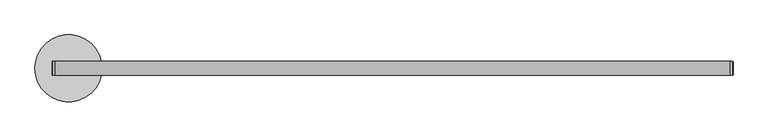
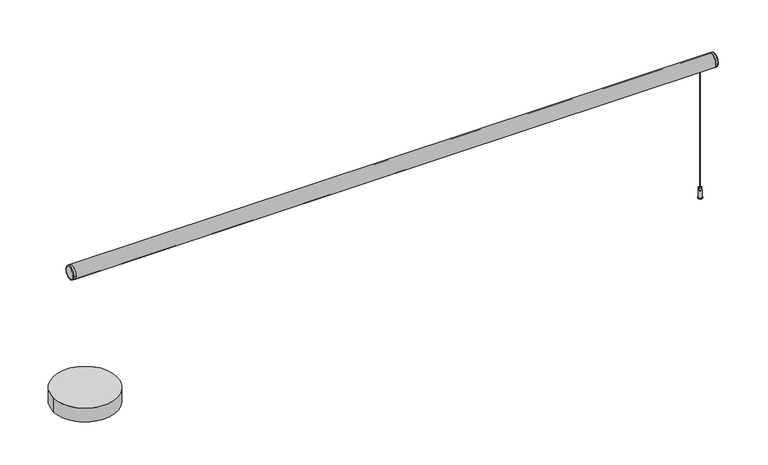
"""IFC4 building model written with IfcOpenShell, lengths in millimetres: light fixture geometry, ARTEMIDE-AoL-StandAlone-Linear_Suspended : StandALone_Suspended_Linear-2400mm 6969lm 3000K."""

import ifcopenshell
import ifcopenshell.guid

model = None  # the IFC model being written
_history = None  # IfcOwnerHistory: only IFC2X3 demands one
_inside = {}  # id of a spatial element -> (the spatial element, [elements in it])
_under = {}  # id of a project, library or spatial element -> (it, [spatial elements below it])
_declared = {}  # id of a project -> (the project, [libraries it declares])
_typed = {}  # id of a type object -> (the type object, [elements of that type])
_made_of = {}  # id of a material, layer set ... -> (it, [elements and type objects made of it])


def new_model(schema):
    """Start an empty IFC model of exactly this schema.

    Asked for "IFC4X3", IfcOpenShell would pick the latest addendum, in which some entities
    have other attributes; the version numbers below select the first issue.
    IFC2X3 requires an IfcOwnerHistory on every rooted entity: one is made here for all.
    """
    global model, _history
    if schema == "IFC4X3":
        model = ifcopenshell.file(schema_version=(4, 3, 0, 0))
    else:
        model = ifcopenshell.file(schema=schema)
    _inside.clear()
    _under.clear()
    _declared.clear()
    _typed.clear()
    _made_of.clear()
    _history = None
    if model.schema == "IFC2X3":
        org = make("IfcOrganization", Name="unknown")
        user = make(
            "IfcPersonAndOrganization",
            ThePerson=make("IfcPerson", FamilyName="unknown"),
            TheOrganization=org,
        )
        app = make(
            "IfcApplication",
            ApplicationDeveloper=org,
            Version="unknown",
            ApplicationFullName="unknown",
            ApplicationIdentifier="unknown",
        )
        _history = make(
            "IfcOwnerHistory",
            OwningUser=user,
            OwningApplication=app,
            ChangeAction="ADDED",
            CreationDate=0,
        )
    return model


def make(cls, **values):
    """One entity of the class cls with the attributes given. An attribute that is None is left unset."""
    return model.create_entity(
        cls, **{name: value for name, value in values.items() if value is not None}
    )


def rooted(cls, **values):
    """An entity with a GlobalId (a new one), such as an element, a storey or a relation."""
    return make(cls, GlobalId=ifcopenshell.guid.new(), OwnerHistory=_history, **values)


def si_unit(unit_type, name, prefix=None):
    """IfcSIUnit, for example si_unit("LENGTHUNIT", "METRE", prefix="MILLI")."""
    return make("IfcSIUnit", UnitType=unit_type, Prefix=prefix, Name=name)


def assignment(units):
    """IfcUnitAssignment: the units of a project."""
    return None if units is None else make("IfcUnitAssignment", Units=units)


def point(xyz):
    """IfcCartesianPoint."""
    return None if xyz is None else make("IfcCartesianPoint", Coordinates=xyz)


def direction(xyz):
    """IfcDirection."""
    return None if xyz is None else make("IfcDirection", DirectionRatios=xyz)


def frame(location, z_axis=None, x_axis=None):
    """IfcAxis2Placement3D, a coordinate frame: its origin and axes. An axis left out is left unset."""
    return make(
        "IfcAxis2Placement3D",
        Location=point(location),
        Axis=direction(z_axis),
        RefDirection=direction(x_axis),
    )


def frame_2d(location, x_axis=None):
    """IfcAxis2Placement2D, a coordinate frame in the plane: its origin and x axis."""
    return make(
        "IfcAxis2Placement2D", Location=point(location), RefDirection=direction(x_axis)
    )


def origin():
    """The frame at (0, 0, 0) with its axes left unset."""
    return frame((0.0, 0.0, 0.0))


def origin_with_axes():
    """The frame at (0, 0, 0) with the z axis (0, 0, 1) and the x axis (1, 0, 0) written out."""
    return frame((0.0, 0.0, 0.0), z_axis=(0.0, 0.0, 1.0), x_axis=(1.0, 0.0, 0.0))


def place(relative_to, where):
    """IfcLocalPlacement: puts the frame where relative to a parent placement (None: the world)."""
    return make(
        "IfcLocalPlacement", PlacementRelTo=relative_to, RelativePlacement=where
    )


def context(
    kind, dimensions, precision=None, world=None, true_north=None, identifier=None
):
    """IfcGeometricRepresentationContext, for example the 3D "Model" context."""
    return make(
        "IfcGeometricRepresentationContext",
        ContextIdentifier=identifier,
        ContextType=kind,
        CoordinateSpaceDimension=dimensions,
        Precision=precision,
        WorldCoordinateSystem=world,
        TrueNorth=true_north,
    )


def project(units=None, contexts=None):
    """IfcProject with its units and contexts."""
    return rooted(
        "IfcProject",
        Name="project",
        RepresentationContexts=contexts,
        UnitsInContext=assignment(units),
    )


def spatial(cls, under=None, at=None, **own):
    """A site, building, storey or space (cls), placed at a placement, below another one or the project."""
    s = rooted(cls, ObjectPlacement=at, **own)
    if under is not None:
        _under.setdefault(under.id(), (under, []))[1].append(s)
    return s


def polyline(points):
    """IfcPolyline through the points."""
    return make("IfcPolyline", Points=[point(p) for p in points])


def circle_curve(where, radius):
    """IfcCircle in the frame where."""
    return make("IfcCircle", Position=where, Radius=radius)


def ellipse_curve(where, semi_axis1, semi_axis2):
    """IfcEllipse in the frame where."""
    return make(
        "IfcEllipse", Position=where, SemiAxis1=semi_axis1, SemiAxis2=semi_axis2
    )


def trimmed(basis, trim1, trim2, sense, master):
    """IfcTrimmedCurve: the piece of a basis curve between two trims."""
    return make(
        "IfcTrimmedCurve",
        BasisCurve=basis,
        Trim1=trim1,
        Trim2=trim2,
        SenseAgreement=sense,
        MasterRepresentation=master,
    )


def segment(curve, same_sense, transition):
    """IfcCompositeCurveSegment."""
    return make(
        "IfcCompositeCurveSegment",
        Transition=transition,
        SameSense=same_sense,
        ParentCurve=curve,
    )


def composite_curve(segments, self_intersect=None):
    """IfcCompositeCurve: segments joined end to end."""
    return make("IfcCompositeCurve", Segments=segments, SelfIntersect=self_intersect)


def outline(outer, holes=None, kind="AREA"):
    """IfcArbitraryClosedProfileDef: a profile drawn as a closed curve; with holes, ...WithVoids."""
    if holes is None:
        return make("IfcArbitraryClosedProfileDef", ProfileType=kind, OuterCurve=outer)
    return make(
        "IfcArbitraryProfileDefWithVoids",
        ProfileType=kind,
        OuterCurve=outer,
        InnerCurves=holes,
    )


def extrude(swept, where, along, depth):
    """IfcExtrudedAreaSolid: the profile swept, set in the frame where, extruded along a direction by depth."""
    return make(
        "IfcExtrudedAreaSolid",
        SweptArea=swept,
        Position=where,
        ExtrudedDirection=direction(along),
        Depth=depth,
    )


def shape(context_of_items, identifier, shape_type, items):
    """IfcShapeRepresentation: the items that make up one representation, for example the "Body"."""
    return make(
        "IfcShapeRepresentation",
        ContextOfItems=context_of_items,
        RepresentationIdentifier=identifier,
        RepresentationType=shape_type,
        Items=items,
    )


def source(mapping_origin, context_of_items, identifier, shape_type, items):
    """IfcRepresentationMap: a shape defined once, which mapped items show again and again."""
    return make(
        "IfcRepresentationMap",
        MappingOrigin=mapping_origin,
        MappedRepresentation=shape(context_of_items, identifier, shape_type, items),
    )


def transform(
    local_origin,
    x_axis=None,
    y_axis=None,
    z_axis=None,
    scale=None,
    scale2=None,
    scale3=None,
    uniform=True,
):
    """IfcCartesianTransformationOperator3D, or its non-uniform kind. x_axis, y_axis, z_axis: its Axis1, 2, 3."""
    if uniform:
        return make(
            "IfcCartesianTransformationOperator3D",
            Axis1=direction(x_axis),
            Axis2=direction(y_axis),
            LocalOrigin=point(local_origin),
            Scale=scale,
            Axis3=direction(z_axis),
        )
    return make(
        "IfcCartesianTransformationOperator3DnonUniform",
        Axis1=direction(x_axis),
        Axis2=direction(y_axis),
        LocalOrigin=point(local_origin),
        Scale=scale,
        Axis3=direction(z_axis),
        Scale2=scale2,
        Scale3=scale3,
    )


def mapped(mapping_source, mapping_target):
    """IfcMappedItem: shows the shape of a source again, moved by a transform."""
    return make(
        "IfcMappedItem", MappingSource=mapping_source, MappingTarget=mapping_target
    )


def made_of(thing, what):
    """Note that an element or type object is made of a material, layer set ...; save() writes the relation."""
    if what is not None:
        _made_of.setdefault(what.id(), (what, []))[1].append(thing)
    return thing


def element(
    cls,
    number,
    at=None,
    inside=None,
    cuts=None,
    type_object=None,
    material=None,
    context=None,
    identifier="Body",
    shape_type=None,
    held_by="IfcProductDefinitionShape",
    body=None,
    shapes=None,
    **own,
):
    """One element of the class cls, such as IfcWall. Its Tag is "e" and its number.

    at: its placement. inside: the storey or other place that contains it. cuts: it is an
    opening in that element (IfcRelVoidsElement). A single representation is given by context,
    identifier, shape_type and body (its items); several are given by shapes. held_by: the class
    of the entity that holds the representations. save() writes the other relations.
    """
    e = rooted(cls, Tag="e%d" % number, ObjectPlacement=at, **own)
    if body is not None:
        shapes = [shape(context, identifier, shape_type, body)]
    if shapes is not None:
        e.Representation = make(held_by, Representations=shapes)
    if inside is not None:
        _inside.setdefault(inside.id(), (inside, []))[1].append(e)
    if cuts is not None:
        rooted(
            "IfcRelVoidsElement", RelatingBuildingElement=cuts, RelatedOpeningElement=e
        )
    if type_object is not None:
        _typed.setdefault(type_object.id(), (type_object, []))[1].append(e)
    return made_of(e, material)


def aggregate(whole, parts):
    """IfcRelAggregates: a whole, such as a stair, and the parts it consists of."""
    return rooted("IfcRelAggregates", RelatingObject=whole, RelatedObjects=parts)


def save(model, path):
    """Write the relations noted so far, then the file.

    IfcRelAggregates (storeys below a building ...), IfcRelContainedInSpatialStructure (elements
    in a storey), IfcRelDefinesByType, IfcRelAssociatesMaterial and IfcRelDeclares: one each for
    every whole, place, type object, material and project.
    """
    for whole, parts in _under.values():
        aggregate(whole, parts)
    for where, things in _inside.values():
        rooted(
            "IfcRelContainedInSpatialStructure",
            RelatedElements=things,
            RelatingStructure=where,
        )
    for kind, things in _typed.values():
        rooted("IfcRelDefinesByType", RelatedObjects=things, RelatingType=kind)
    for what, things in _made_of.values():
        rooted("IfcRelAssociatesMaterial", RelatedObjects=things, RelatingMaterial=what)
    for by, libraries in _declared.values():
        rooted("IfcRelDeclares", RelatingContext=by, RelatedDefinitions=libraries)
    model.write(path)


def plane_surface(at):
    """IfcPlane: the flat surface through the origin of the frame at, square to its z axis."""
    return make("IfcPlane", Position=at)


def cylinder_surface(at, radius):
    """IfcCylindricalSurface: all points at the distance radius from the z axis of the frame at."""
    return make("IfcCylindricalSurface", Position=at, Radius=radius)


def revolved_surface(curve, axis_point, axis_direction):
    """IfcSurfaceOfRevolution: the curve turned about the line through axis_point along axis_direction."""
    return make(
        "IfcSurfaceOfRevolution",
        SweptCurve=make("IfcArbitraryOpenProfileDef", ProfileType="CURVE", Curve=curve),
        AxisPosition=make("IfcAxis1Placement", Location=point(axis_point), Axis=direction(axis_direction)),
    )


def advanced_brep(points, edges, surfaces, faces):
    """IfcAdvancedBrep: a solid bounded by faces that lie on surfaces and meet in shared edges.

    An edge is (start, end): straight between two places in points (the first is 0);
    or (start, end, curve); or (start, end, curve, False) where it runs against its curve.
    A face is (place in surfaces, loops), or (place, loops, False) where it looks against
    its surface's normal. A loop lists edges by number (the first is 1), with a minus sign
    where the edge is run from its end to its start. The first loop is the outer one.
    """
    corners = [point(p) for p in points]
    vertices = [make("IfcVertexPoint", VertexGeometry=c) for c in corners]
    made = []
    for start, end, *more in edges:
        made.append(
            make(
                "IfcEdgeCurve",
                EdgeStart=vertices[start],
                EdgeEnd=vertices[end],
                EdgeGeometry=more[0] if more else make("IfcPolyline", Points=[corners[start], corners[end]]),
                SameSense=more[1] if len(more) > 1 else True,
            )
        )
    hull = []
    for where, loops, *sense in faces:
        bounds = []
        for j, loop in enumerate(loops):
            ring = [make("IfcOrientedEdge", EdgeElement=made[abs(k) - 1], Orientation=k > 0) for k in loop]
            bounds.append(
                make(
                    "IfcFaceOuterBound" if j == 0 else "IfcFaceBound",
                    Bound=make("IfcEdgeLoop", EdgeList=ring),
                    Orientation=True,
                )
            )
        hull.append(make("IfcAdvancedFace", Bounds=bounds, FaceSurface=surfaces[where], SameSense=sense[0] if sense else True))
    return make("IfcAdvancedBrep", Outer=make("IfcClosedShell", CfsFaces=hull))


def light_fixture_a0be27c5(model_context):
    return source(origin(), model_context, "Body", "SolidModel", [
        advanced_brep(
        [(-9.9967986, 22.0, 525.0), (-9.9967986, -22.0, 525.0), (0.0032014, 25.0, 525.0), (0.0032014, -25.0, 525.0), (-6.9967986, -25.0, 525.0), (-6.9967986, 25.0, 525.0)],
        [
            (0, 1, circle_curve(frame((-9.9967986, 0.0, 525.0), z_axis=(-1.0, 0.0, 0.0), x_axis=(0.0, -1.0, 0.0)), 22.0)),
            (1, 0, circle_curve(frame((-9.9967986, 0.0, 525.0), z_axis=(-1.0, 0.0, 0.0), x_axis=(0.0, 1.0, 0.0)), 22.0)),
            (2, 3, circle_curve(frame((0.0032014, 0.0, 525.0), z_axis=(1.0, 0.0, 0.0), x_axis=(0.0, -1.0, 0.0)), 25.0)),
            (3, 2, circle_curve(frame((0.0032014, 0.0, 525.0), z_axis=(1.0, 0.0, 0.0), x_axis=(0.0, -1.0, 0.0)), 25.0)),
            (3, 4),
            (4, 5, circle_curve(frame((-6.9967986, 0.0, 525.0), z_axis=(1.0, 0.0, 0.0), x_axis=(0.0, -1.0, 0.0)), 25.0)),
            (5, 2),
            (5, 4, circle_curve(frame((-6.9967986, 0.0, 525.0), z_axis=(1.0, 0.0, 0.0), x_axis=(0.0, -1.0, 0.0)), 25.0)),
            (0, 5, circle_curve(frame((-6.9967986, 22.0, 525.0), z_axis=(0.0, 0.0, -1.0), x_axis=(0.0, 1.0, 0.0)), 3.0)),
            (4, 1, circle_curve(frame((-6.9967986, -22.0, 525.0), z_axis=(0.0, 0.0, -1.0), x_axis=(0.0, -1.0, 0.0)), 3.0)),
        ],
        [
            plane_surface(frame((-9.9967986, -25.0, 525.0), z_axis=(-1.0, 0.0, 0.0), x_axis=(0.0, 0.0, 1.0))),
            plane_surface(frame((0.0032014, -25.0, 525.0), z_axis=(1.0, 0.0, 0.0), x_axis=(0.0, 0.0, -1.0))),
            cylinder_surface(frame((0.0032014, 0.0, 525.0), z_axis=(-1.0, 0.0, 0.0), x_axis=(0.0, -1.0, 0.0)), 25.0),
            revolved_surface(trimmed(ellipse_curve(frame((-6.9967986, -22.0, 525.0), z_axis=(0.0, 0.0, 1.0), x_axis=(0.0, -1.0, 0.0)), 3.0, 3.0), [point((-9.9967986, -22.0, 525.0))], [point((-6.9967986, -25.0, 525.0))], True, "CARTESIAN"), (-9.9967986, 0.0, 525.0), (1.0, 0.0, 0.0)),
            revolved_surface(trimmed(ellipse_curve(frame((-6.9967986, 22.0, 525.0), z_axis=(0.0, 0.0, -1.0), x_axis=(0.0, 1.0, 0.0)), 3.0, 3.0), [point((-9.9967986, 22.0, 525.0))], [point((-6.9967986, 25.0, 525.0))], True, "CARTESIAN"), (-9.9967986, 0.0, 525.0), (1.0, 0.0, 0.0)),
        ],
        [
            (0, [[1, 2]]),
            (1, [[3, 4]]),
            (2, [[-4, 5, 6, 7]]),
            (2, [[-3, -7, 8, -5]]),
            (3, [[9, -6, 10, -1]]),
            (4, [[-9, -2, -10, -8]]),
        ],
    ),
        advanced_brep(
        [(2335.0, 0.0, 41.0209548), (2337.0, 0.0, 41.0209548), (2341.4902255, 0.0, 41.0209548), (2330.5097745, 0.0, 41.0209548), (2335.0, 0.0, 0.0), (2337.0, 0.0, 0.0), (2327.4476301, 0.0, 0.0), (2344.5523699, 0.0, 0.0), (2327.4476301, 0.0, 2.0209548), (2344.5523699, 0.0, 2.0209548), (2329.4476301, 0.0, 2.0209548), (2342.5523699, 0.0, 2.0209548), (2329.4476301, 0.0, 30.9721976), (2342.5523699, 0.0, 30.9721976), (2330.5097745, 0.0, 30.9721976), (2341.4902255, 0.0, 30.9721976)],
        [
            (0, 1, circle_curve(frame((2336.0, 0.0, 41.0209548), z_axis=(0.0, 0.0, -1.0), x_axis=(1.0, 0.0, 0.0)), 1.0)),
            (1, 2),
            (2, 3, circle_curve(frame((2336.0, 0.0, 41.0209548), z_axis=(0.0, 0.0, 1.0), x_axis=(1.0, 0.0, 0.0)), 5.4902255)),
            (3, 0),
            (1, 0, circle_curve(frame((2336.0, 0.0, 41.0209548), z_axis=(0.0, 0.0, -1.0), x_axis=(1.0, 0.0, 0.0)), 1.0)),
            (3, 2, circle_curve(frame((2336.0, 0.0, 41.0209548), z_axis=(0.0, 0.0, 1.0), x_axis=(1.0, 0.0, 0.0)), 5.4902255)),
            (4, 5, circle_curve(frame((2336.0, 0.0, 0.0), z_axis=(0.0, 0.0, -1.0), x_axis=(1.0, 0.0, 0.0)), 1.0)),
            (5, 1),
            (0, 4),
            (5, 4, circle_curve(frame((2336.0, 0.0, 0.0), z_axis=(0.0, 0.0, -1.0), x_axis=(1.0, 0.0, 0.0)), 1.0)),
            (6, 7, circle_curve(frame((2336.0, 0.0, 0.0), z_axis=(0.0, 0.0, -1.0), x_axis=(1.0, 0.0, 0.0)), 8.5523699)),
            (7, 5),
            (4, 6),
            (7, 6, circle_curve(frame((2336.0, 0.0, 0.0), z_axis=(0.0, 0.0, -1.0), x_axis=(1.0, 0.0, 0.0)), 8.5523699)),
            (8, 9, circle_curve(frame((2336.0, 0.0, 2.0209548), z_axis=(0.0, 0.0, -1.0), x_axis=(1.0, 0.0, 0.0)), 8.5523699)),
            (9, 7),
            (6, 8),
            (9, 8, circle_curve(frame((2336.0, 0.0, 2.0209548), z_axis=(0.0, 0.0, -1.0), x_axis=(1.0, 0.0, 0.0)), 8.5523699)),
            (10, 11, circle_curve(frame((2336.0, 0.0, 2.0209548), z_axis=(0.0, 0.0, -1.0), x_axis=(1.0, 0.0, 0.0)), 6.5523699)),
            (11, 9),
            (8, 10),
            (11, 10, circle_curve(frame((2336.0, 0.0, 2.0209548), z_axis=(0.0, 0.0, -1.0), x_axis=(1.0, 0.0, 0.0)), 6.5523699)),
            (12, 13, circle_curve(frame((2336.0, 0.0, 30.9721976), z_axis=(0.0, 0.0, -1.0), x_axis=(1.0, 0.0, 0.0)), 6.5523699)),
            (13, 11),
            (10, 12),
            (13, 12, circle_curve(frame((2336.0, 0.0, 30.9721976), z_axis=(0.0, 0.0, -1.0), x_axis=(1.0, 0.0, 0.0)), 6.5523699)),
            (14, 15, circle_curve(frame((2336.0, 0.0, 30.9721976), z_axis=(0.0, 0.0, -1.0), x_axis=(1.0, 0.0, 0.0)), 5.4902255)),
            (15, 13),
            (12, 14),
            (15, 14, circle_curve(frame((2336.0, 0.0, 30.9721976), z_axis=(0.0, 0.0, -1.0), x_axis=(1.0, 0.0, 0.0)), 5.4902255)),
            (2, 15),
            (14, 3),
        ],
        [
            plane_surface(frame((2336.0, 0.0, 41.0209548), z_axis=(0.0, 0.0, 1.0), x_axis=(1.0, 0.0, 0.0))),
            revolved_surface(polyline([(2337.0, 0.0, 41.02095480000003), (2337.0, 0.0, 0.0)]), (2336.0, 0.0, 391.16642), (0.0, 0.0, 1.0)),
            plane_surface(frame((2336.0, 0.0, 0.0), z_axis=(0.0, 0.0, -1.0), x_axis=(1.0, 0.0, 0.0))),
            cylinder_surface(frame((2336.0, 0.0, 391.16642), z_axis=(0.0, 0.0, 1.0), x_axis=(1.0, 0.0, 0.0)), 8.5523699),
            plane_surface(frame((2336.0, 0.0, 2.0209548), z_axis=(0.0, 0.0, 1.0), x_axis=(1.0, 0.0, 0.0))),
            cylinder_surface(frame((2336.0, 0.0, 391.16642), z_axis=(0.0, 0.0, 1.0), x_axis=(1.0, 0.0, 0.0)), 6.5523699),
            plane_surface(frame((2336.0, 0.0, 30.9721976), z_axis=(0.0, 0.0, 1.0), x_axis=(1.0, 0.0, 0.0))),
            cylinder_surface(frame((2336.0, 0.0, 391.16642), z_axis=(0.0, 0.0, 1.0), x_axis=(1.0, 0.0, 0.0)), 5.4902255),
        ],
        [
            (0, [[1, 2, 3, 4]]),
            (0, [[5, -4, 6, -2]]),
            (1, [[7, 8, -1, 9]]),
            (1, [[10, -9, -5, -8]]),
            (2, [[11, 12, -7, 13]]),
            (2, [[14, -13, -10, -12]]),
            (3, [[15, 16, -11, 17]]),
            (3, [[18, -17, -14, -16]]),
            (4, [[19, 20, -15, 21]]),
            (4, [[22, -21, -18, -20]]),
            (5, [[23, 24, -19, 25]]),
            (5, [[26, -25, -22, -24]]),
            (6, [[27, 28, -23, 29]]),
            (6, [[30, -29, -26, -28]]),
            (7, [[-3, 31, -27, 32]]),
            (7, [[-6, -32, -30, -31]]),
        ],
    ),
        extrude(outline(composite_curve([segment(trimmed(circle_curve(frame_2d((2336.0, 0.0)), 0.8), [point((2335.2, 0.0))], [point((2336.8, 0.0))], False, "CARTESIAN"), True, "CONTINUOUS"), segment(trimmed(circle_curve(frame_2d((2336.0, 0.0)), 0.8), [point((2336.8, 0.0))], [point((2335.2, 0.0))], False, "CARTESIAN"), True, "CONTINUOUS")], self_intersect=False)), origin_with_axes(), (0.0, 0.0, 1.0), 500.0),
        advanced_brep(
        [(2390.0032014, -22.0, 525.0), (2390.0032014, 22.0, 525.0), (2380.0032014, 25.0, 525.0), (2380.0032014, -25.0, 525.0), (2387.0032014, -25.0, 525.0), (2387.0032014, 25.0, 525.0)],
        [
            (0, 1, circle_curve(frame((2390.0032014, 0.0, 525.0), z_axis=(1.0, 0.0, 0.0), x_axis=(0.0, 1.0, 0.0)), 22.0)),
            (1, 0, circle_curve(frame((2390.0032014, 0.0, 525.0), z_axis=(1.0, 0.0, 0.0), x_axis=(0.0, -1.0, 0.0)), 22.0)),
            (2, 3, circle_curve(frame((2380.0032014, 0.0, 525.0), z_axis=(-1.0, 0.0, 0.0), x_axis=(0.0, 0.0, 1.0)), 25.0)),
            (3, 2, circle_curve(frame((2380.0032014, 0.0, 525.0), z_axis=(-1.0, 0.0, 0.0), x_axis=(0.0, 0.0, 1.0)), 25.0)),
            (3, 4),
            (4, 5, circle_curve(frame((2387.0032014, 0.0, 525.0), z_axis=(-1.0, 0.0, 0.0), x_axis=(0.0, 0.0, 1.0)), 25.0)),
            (5, 2),
            (5, 4, circle_curve(frame((2387.0032014, 0.0, 525.0), z_axis=(-1.0, 0.0, 0.0), x_axis=(0.0, 0.0, 1.0)), 25.0)),
            (0, 4, circle_curve(frame((2387.0032014, -22.0, 525.0), z_axis=(0.0, 0.0, -1.0), x_axis=(0.0, -1.0, 0.0)), 3.0)),
            (5, 1, circle_curve(frame((2387.0032014, 22.0, 525.0), z_axis=(0.0, 0.0, -1.0), x_axis=(0.0, 1.0, 0.0)), 3.0)),
        ],
        [
            plane_surface(frame((2390.0032014, 0.0, 550.0), z_axis=(1.0, 0.0, 0.0), x_axis=(0.0, -1.0, 0.0))),
            plane_surface(frame((2380.0032014, 0.0, 550.0), z_axis=(-1.0, 0.0, 0.0), x_axis=(0.0, 1.0, 0.0))),
            cylinder_surface(frame((2380.0032014, 0.0, 525.0), z_axis=(1.0, 0.0, 0.0), x_axis=(0.0, 0.0, 1.0)), 25.0),
            revolved_surface(trimmed(ellipse_curve(frame((2387.0032014, 22.0, 525.0), z_axis=(0.0, 0.0, 1.0), x_axis=(0.0, 1.0, 0.0)), 3.0, 3.0), [point((2390.0032014, 22.0, 525.0))], [point((2387.0032014, 25.0, 525.0))], True, "CARTESIAN"), (2390.0032014, 0.0, 525.0), (-1.0, 0.0, 0.0)),
            revolved_surface(trimmed(ellipse_curve(frame((2387.0032014, -22.0, 525.0), z_axis=(0.0, 0.0, -1.0), x_axis=(0.0, -1.0, 0.0)), 3.0, 3.0), [point((2390.0032014, -22.0, 525.0))], [point((2387.0032014, -25.0, 525.0))], True, "CARTESIAN"), (2390.0032014, 0.0, 525.0), (-1.0, 0.0, 0.0)),
        ],
        [
            (0, [[1, 2]]),
            (1, [[3, 4]]),
            (2, [[-4, 5, 6, 7]]),
            (2, [[-3, -7, 8, -5]]),
            (3, [[9, -8, 10, -1]]),
            (4, [[-9, -2, -10, -6]]),
        ],
    ),
        extrude(outline(composite_curve([segment(trimmed(circle_curve(frame_2d((0.0, 525.0)), 25.0), [point((-11.75, 502.9333396))], [point((11.75, 502.9333396))], False, "CARTESIAN"), True, "CONTINUOUS"), segment(polyline([(11.75, 502.9333396), (11.75, 507.259212), (13.667754, 507.259212), (13.667754, 505.8288843), (15.617754, 507.2440748), (15.617754, 509.244074), (12.667754, 509.244074), (12.667754, 510.744074), (17.2779794, 510.744074)]), True, "CONTINUOUS"), segment(trimmed(circle_curve(frame_2d((0.0, 525.0)), 22.4), [point((17.2779794, 510.744074))], [point((-17.2779794, 510.744074))], True, "CARTESIAN"), True, "CONTINUOUS"), segment(polyline([(-17.2779794, 510.744074), (-12.667754, 510.744074), (-12.667754, 509.244074), (-15.617754, 509.244074), (-15.617754, 507.2440748), (-13.667754, 505.8288843), (-13.667754, 507.259212), (-11.75, 507.259212), (-11.75, 502.9333396)]), True, "CONTINUOUS")], self_intersect=False)), frame((0.0032014, 0.0, 0.0), z_axis=(1.0, 0.0, 0.0), x_axis=(0.0, 1.0, 0.0)), (0.0, 0.0, 1.0), 2380.0),
        extrude(outline(composite_curve([segment(trimmed(circle_curve(frame_2d((0.0, 525.0)), 25.0), [point((11.75, 502.9333396))], [point((-11.75, 502.9333396))], False, "CARTESIAN"), True, "CONTINUOUS"), segment(polyline([(-11.75, 502.9333396), (-11.75, 507.259212), (-15.304087, 507.259212), (-15.304087, 508.785971), (-9.5062575, 508.785971), (-9.5062575, 514.4273482), (9.5062575, 514.4273482), (9.5062575, 508.785971), (15.304087, 508.785971), (15.304087, 507.259212), (11.75, 507.259212), (11.75, 502.9333396)]), True, "CONTINUOUS")], self_intersect=False)), frame((0.0032014, 0.0, 0.0), z_axis=(1.0, 0.0, 0.0), x_axis=(0.0, 1.0, 0.0)), (0.0, 0.0, 1.0), 2380.0),
        extrude(outline(composite_curve([segment(trimmed(circle_curve(frame_2d((48.0, 0.0)), 118.5), [point((166.5, 0.0))], [point((-70.5, 0.0))], False, "CARTESIAN"), True, "CONTINUOUS"), segment(trimmed(circle_curve(frame_2d((48.0, 0.0)), 118.5), [point((-70.5, 0.0))], [point((166.5, 0.0))], False, "CARTESIAN"), True, "CONTINUOUS")], self_intersect=False)), origin_with_axes(), (0.0, 0.0, 1.0), 54.0),
    ])


if __name__ == "__main__":
    model = new_model("IFC4")
    model_context = context("Model", 3, world=origin())
    ifc_project = project(units=[si_unit("LENGTHUNIT", "METRE", prefix="MILLI")], contexts=[model_context])
    site = spatial("IfcSite", under=ifc_project)
    building = spatial("IfcBuilding", under=site)
    placement = place(None, origin())
    light_fixture_shape = light_fixture_a0be27c5(model_context)
    element("IfcLightFixture", 1, ObjectType="ARTEMIDE-AoL-StandAlone-Linear_Suspended : StandALone_Suspended_Linear-2400mm 6969lm 3000K", at=placement, inside=building, context=model_context, shape_type="MappedRepresentation", body=[
        mapped(light_fixture_shape, transform((0.0, 0.0, 0.0), x_axis=(1.0, 0.0, 0.0), y_axis=(0.0, 1.0, 0.0), z_axis=(0.0, 0.0, 1.0))),
    ])
    save(model, "model.ifc")
